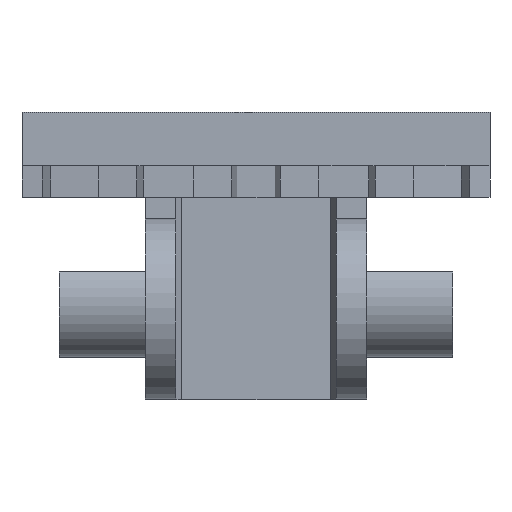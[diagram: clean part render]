
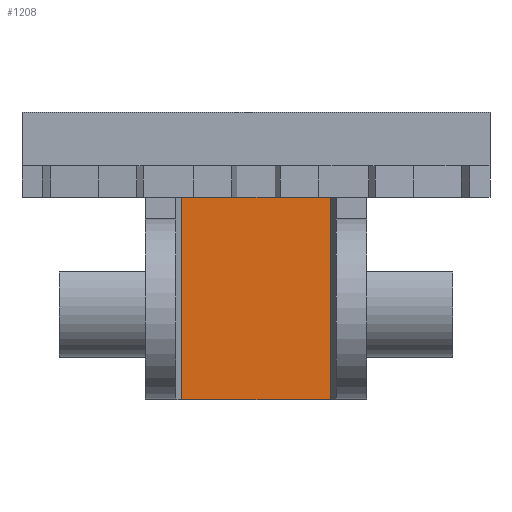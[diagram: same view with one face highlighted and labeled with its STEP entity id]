
A CAD part, left-side view. The second image highlights one B-rep face of the part: STEP entity #1208.
In plain terms, the highlighted planar face has unit normal (-1, 0, 0).
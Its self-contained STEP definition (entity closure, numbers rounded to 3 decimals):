
#643 = VERTEX_POINT ( 'NONE', #1987 ) ;
#656 = EDGE_CURVE ( 'NONE', #677, #643, #2034, .T. ) ;
#677 = VERTEX_POINT ( 'NONE', #2121 ) ;
#1045 = EDGE_CURVE ( 'NONE', #1073, #1074, #2966, .T. ) ;
#1073 = VERTEX_POINT ( 'NONE', #2983 ) ;
#1074 = VERTEX_POINT ( 'NONE', #2906 ) ;
#1122 = EDGE_CURVE ( 'NONE', #677, #1073, #3019, .T. ) ;
#1123 = ORIENTED_EDGE ( 'NONE', *, *, #656, .F. ) ;
#1208 = ADVANCED_FACE ( 'NONE', ( #3129 ), #2672, .F. ) ;
#1209 = ORIENTED_EDGE ( 'NONE', *, *, #1122, .T. ) ;
#1238 = ORIENTED_EDGE ( 'NONE', *, *, #1045, .T. ) ;
#1273 = EDGE_CURVE ( 'NONE', #1074, #643, #3141, .T. ) ;
#1300 = ORIENTED_EDGE ( 'NONE', *, *, #1273, .T. ) ;
#1301 = EDGE_LOOP ( 'NONE', ( #1238, #1300, #1123, #1209 ) ) ;
#1987 = CARTESIAN_POINT ( 'NONE',  ( -2.209, 6.969, 14.1 ) ) ;
#2013 = DIRECTION ( 'NONE',  ( 0., 1., 0. ) ) ;
#2014 = VECTOR ( 'NONE', #2013, 1000. ) ;
#2033 = CARTESIAN_POINT ( 'NONE',  ( -2.209, -7.581, 14.1 ) ) ;
#2034 = LINE ( 'NONE', #2033, #2014 ) ;
#2121 = CARTESIAN_POINT ( 'NONE',  ( -2.209, -7.031, 14.1 ) ) ;
#2672 = PLANE ( 'NONE',  #2700 ) ;
#2675 = DIRECTION ( 'NONE',  ( 1., 0., 0. ) ) ;
#2696 = CARTESIAN_POINT ( 'NONE',  ( -2.209, -7.581, 33.1 ) ) ;
#2700 = AXIS2_PLACEMENT_3D ( 'NONE', #2696, #2675, #2708 ) ;
#2708 = DIRECTION ( 'NONE',  ( 0., 0., -1. ) ) ;
#2906 = CARTESIAN_POINT ( 'NONE',  ( -2.209, 6.969, 33.1 ) ) ;
#2928 = DIRECTION ( 'NONE',  ( 0., 1., 0. ) ) ;
#2929 = VECTOR ( 'NONE', #2928, 1000. ) ;
#2965 = CARTESIAN_POINT ( 'NONE',  ( -2.209, -7.581, 33.1 ) ) ;
#2966 = LINE ( 'NONE', #2965, #2929 ) ;
#2983 = CARTESIAN_POINT ( 'NONE',  ( -2.209, -7.031, 33.1 ) ) ;
#2987 = VECTOR ( 'NONE', #3017, 1000. ) ;
#3017 = DIRECTION ( 'NONE',  ( 0., 0., 1. ) ) ;
#3018 = CARTESIAN_POINT ( 'NONE',  ( -2.209, -7.031, 33.1 ) ) ;
#3019 = LINE ( 'NONE', #3018, #2987 ) ;
#3129 = FACE_OUTER_BOUND ( 'NONE', #1301, .T. ) ;
#3138 = DIRECTION ( 'NONE',  ( 0., 0., -1. ) ) ;
#3139 = VECTOR ( 'NONE', #3138, 1000. ) ;
#3140 = CARTESIAN_POINT ( 'NONE',  ( -2.209, 6.969, 14.1 ) ) ;
#3141 = LINE ( 'NONE', #3140, #3139 ) ;
